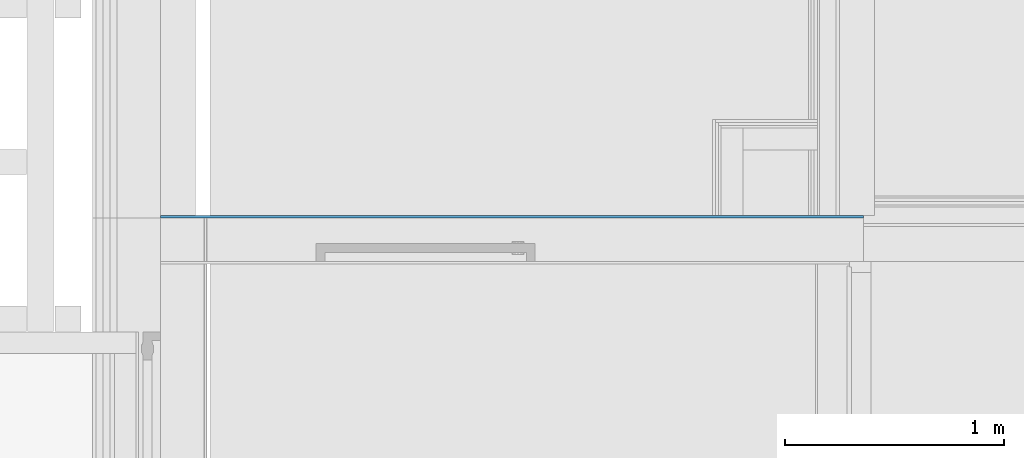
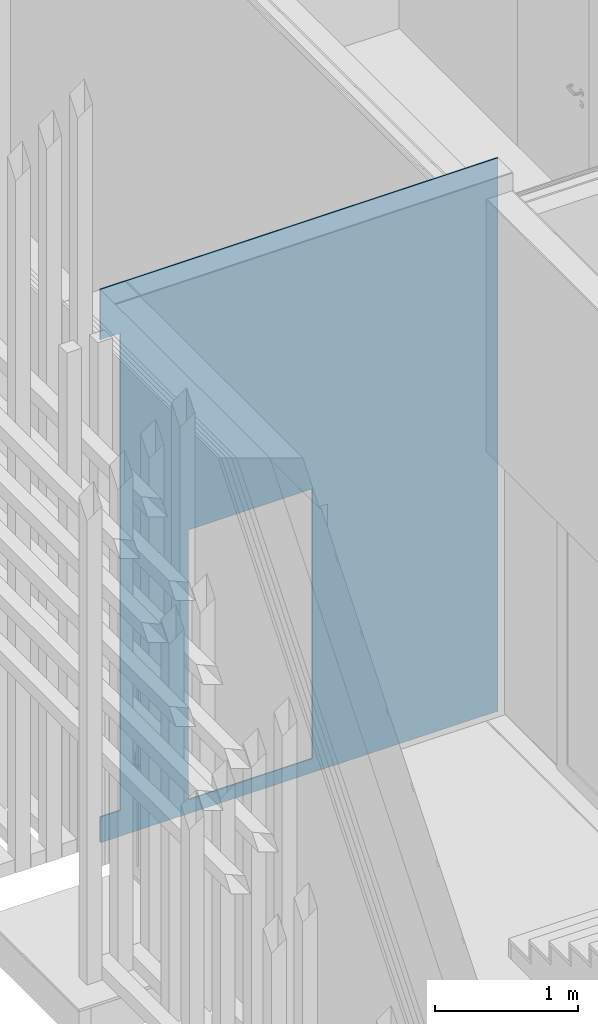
# One storey, part 157 of 260: 1 building element part, 1 opening, 1 element without a shape of its own.
"""IFC2X3 building model written with IfcOpenShell, lengths in millimetres."""

from ifc_helpers import new_model, entity, si_unit, converted_unit, derived_unit, money_unit, direction, frame, origin_with_axes, place, context, subcontext, project, spatial, faceted_brep, material, type_object, element, aggregate, save


model = new_model("IFC2X3")

# Units and contexts
model_context = context("Model", 3, precision=0.01, world=origin_with_axes(), true_north=direction((0.0, 1.0)))
body_context = subcontext(model_context, "Body", "Model", "MODEL_VIEW")
ifc_project = project(units=[si_unit("LENGTHUNIT", "METRE", prefix="MILLI"), si_unit("AREAUNIT", "SQUARE_METRE"), si_unit("VOLUMEUNIT", "CUBIC_METRE"), converted_unit("PLANEANGLEUNIT", "DEGREE", entity("IfcPlaneAngleMeasure", 0.0174532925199), si_unit("PLANEANGLEUNIT", "RADIAN"), dimensions=[0, 0, 0, 0, 0, 0, 0]), money_unit("EUR"), converted_unit("TIMEUNIT", "Year", entity("IfcTimeMeasure", 31556926.0), si_unit("TIMEUNIT", "SECOND"), dimensions=[0, 0, 1, 0, 0, 0, 0]), si_unit("MASSUNIT", "GRAM", prefix="KILO"), si_unit("THERMODYNAMICTEMPERATUREUNIT", "DEGREE_CELSIUS"), si_unit("LUMINOUSINTENSITYUNIT", "LUMEN"), si_unit("ENERGYUNIT", "JOULE", prefix="MEGA"), derived_unit("THERMALCONDUCTANCEUNIT", [(si_unit("POWERUNIT", "WATT"), 1), (si_unit("LENGTHUNIT", "METRE"), -1), (si_unit("THERMODYNAMICTEMPERATUREUNIT", "KELVIN"), -1)]), derived_unit("SPECIFICHEATCAPACITYUNIT", [(si_unit("ENERGYUNIT", "JOULE"), 1), (si_unit("MASSUNIT", "GRAM", prefix="KILO"), -1), (si_unit("THERMODYNAMICTEMPERATUREUNIT", "KELVIN"), -1)]), derived_unit("MASSDENSITYUNIT", [(si_unit("MASSUNIT", "GRAM", prefix="KILO"), 1), (si_unit("VOLUMEUNIT", "CUBIC_METRE"), -1)])], contexts=[model_context])

# Site, building, storey
site_placement = place(None, origin_with_axes())
site = spatial("IfcSite", under=ifc_project, at=site_placement, Name="Kolde pst 67a", CompositionType="ELEMENT")
building_placement = place(site_placement, origin_with_axes())
building = spatial("IfcBuilding", under=site, at=building_placement, Name="Riigigümnaasium", CompositionType="ELEMENT")
storey_placement = place(building_placement, origin_with_axes())
storey = spatial("IfcBuildingStorey", under=building, at=storey_placement, Name="1. korrus", CompositionType="ELEMENT", Elevation=0.0)

# Wall, opening, building element part
wall_type = type_object("IfcWallType", Name="SS-RB-20/1_+2 krohv 55 dB 220", PredefinedType="NOTDEFINED")
wall_placement = place(storey_placement, frame((3249.94042366, 59349.9979478, -120.0), z_axis=(0.0, 0.0, 1.0), x_axis=(-1.0, 0.0, 0.0)))
wall = element("IfcWall", 1, at=wall_placement, inside=storey, type_object=wall_type, Name="Sisesein")
opening_placement = place(wall_placement, frame((1999.88406538, 0.0, 120.0), z_axis=(0.0, 0.0, 1.0), x_axis=(1.0, 0.0, 0.0)))
element("IfcOpeningElement", 2, at=opening_placement, cuts=wall, Name="Siseuks", context=body_context, shape_type="Brep", body=[
    faceted_brep([(500.0, 440.0, 0.0), (500.0, 440.0, 2300.0), (500.0, -220.0, 2300.0), (500.0, -220.0, 0.0), (-500.0, 440.0, 0.0), (-500.0, 440.0, 2300.0), (-500.0, -220.0, 2300.0), (-500.0, -220.0, 0.0)], [[[0, 1, 2, 3]], [[0, 4, 5, 1]], [[1, 5, 6, 2]], [[3, 2, 6, 7]], [[4, 0, 3, 7]], [[5, 4, 7, 6]]]),
])
ifc_material = material(Name="_VIIMISTLUSKIHT - viimistlus vastavalt SA osale")
building_element_part_placement = place(wall_placement, origin_with_axes())
building_element_part = element("IfcBuildingElementPart", 3, at=building_element_part_placement, material=ifc_material, Name="_VIIMISTLUSKIHT - viimistlus vastavalt SA osale", context=body_context, shape_type="Brep", body=[
    faceted_brep([(3209.88406538, -210.0, 4570.0), (3209.98407463, -210.0, 4570.0), (3209.98406538, -210.0, 4720.0), (0.0, -210.0, 4720.0), (0.0, -210.0, 0.0), (3209.98406538, -210.0, 0.0), (3209.98406538, -210.0, 220.0), (3049.88406538, -210.0, 220.0), (3049.88406538, -210.0, 4290.0), (3209.88406538, -210.0, 4290.0), (2499.88406538, -210.0, 2420.0), (2499.88406538, -210.0, 120.0), (1499.88406538, -210.0, 120.0), (1499.88406538, -210.0, 2420.0), (3209.88406538, -200.000008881, 4570.0), (3209.98406538, -200.000008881, 4570.0), (3209.98406538, -200.0, 4720.0), (0.0, -200.0, 4720.0), (0.0, -200.0, 0.0), (3209.98406538, -200.0, 0.0), (3209.98406538, -199.999992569, 220.0), (3049.88406538, -199.999992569, 220.0), (3049.88406538, -200.00000845, 4290.0), (3209.88406538, -200.000007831, 4290.0), (2499.88406538, -200.0, 120.0), (2499.88406538, -200.0, 2420.0), (1499.88406538, -200.0, 120.0), (1499.88406538, -200.0, 2420.0)], [[[0, 1, 2, 3, 4, 5, 6, 7, 8, 9], [10, 11, 12, 13]], [[1, 0, 14, 15]], [[1, 15, 16, 2]], [[2, 16, 17, 3]], [[3, 17, 18, 4]], [[19, 5, 4, 18]], [[20, 6, 5, 19]], [[7, 6, 20, 21]], [[8, 7, 21, 22]], [[23, 9, 8, 22]], [[0, 9, 23, 14]], [[24, 11, 10, 25]], [[26, 12, 11, 24]], [[27, 13, 12, 26]], [[25, 10, 13, 27]], [[14, 23, 22, 21, 20, 19, 18, 17, 16, 15], [26, 24, 25, 27]]]),
])
aggregate(wall, [building_element_part])

save(model, "model.ifc")
